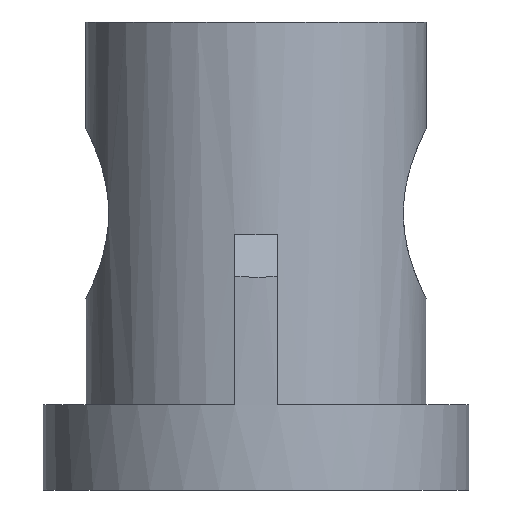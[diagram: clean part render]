
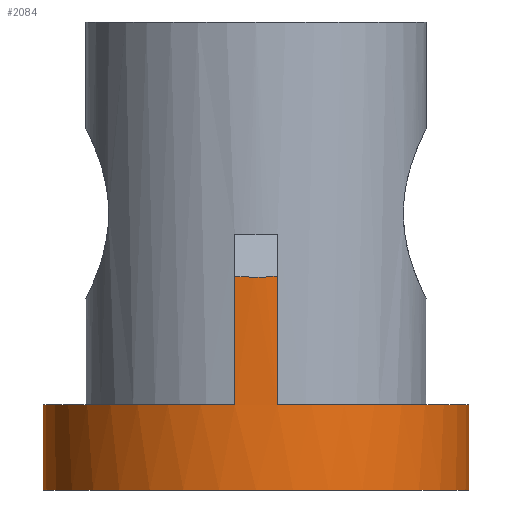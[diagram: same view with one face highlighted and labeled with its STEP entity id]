
A CAD part, left-side view. The second image highlights one B-rep face of the part: STEP entity #2084.
In plain terms, the highlighted cylindrical face has radius 50 mm (diameter 100 mm), a partial arc.
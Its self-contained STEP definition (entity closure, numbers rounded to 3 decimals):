
#100=CARTESIAN_POINT('',(-74.749,-5.,0.));
#101=VERTEX_POINT('',#100);
#108=CARTESIAN_POINT('',(-25.,-50.,0.));
#109=VERTEX_POINT('',#108);
#110=CARTESIAN_POINT('',(-25.,-0.,0.));
#111=DIRECTION('',(0.,0.,1.));
#112=DIRECTION('',(-1.,0.,0.));
#113=AXIS2_PLACEMENT_3D('',#110,#111,#112);
#114=CIRCLE('',#113,50.);
#115=EDGE_CURVE('',#101,#109,#114,.T.);
#2010=CARTESIAN_POINT('',(-25.,-0.,-20.));
#2011=DIRECTION('',(0.,0.,1.));
#2012=DIRECTION('',(1.,0.,-0.));
#2013=AXIS2_PLACEMENT_3D('',#2010,#2011,#2012);
#2014=CYLINDRICAL_SURFACE('',#2013,50.);
#2015=ORIENTED_EDGE('',*,*,#115,.F.);
#2016=CARTESIAN_POINT('',(-74.749,-5.,30.251));
#2017=VERTEX_POINT('',#2016);
#2018=CARTESIAN_POINT('',(-74.749,-5.,0.));
#2019=DIRECTION('',(0.,0.,1.));
#2020=VECTOR('',#2019,30.251);
#2021=LINE('',#2018,#2020);
#2022=EDGE_CURVE('',#101,#2017,#2021,.T.);
#2023=ORIENTED_EDGE('',*,*,#2022,.T.);
#2024=CARTESIAN_POINT('',(-74.749,5.,30.251));
#2025=VERTEX_POINT('',#2024);
#2026=CARTESIAN_POINT('',(-25.,0.,80.));
#2027=DIRECTION('',(-0.707,0.,0.707));
#2028=DIRECTION('',(0.707,0.,0.707));
#2029=AXIS2_PLACEMENT_3D('',#2026,#2027,#2028);
#2030=ELLIPSE('',#2029,70.711,50.);
#2031=EDGE_CURVE('',#2025,#2017,#2030,.T.);
#2032=ORIENTED_EDGE('',*,*,#2031,.F.);
#2033=CARTESIAN_POINT('',(-74.749,5.,0.));
#2034=VERTEX_POINT('',#2033);
#2035=CARTESIAN_POINT('',(-74.749,5.,30.251));
#2036=DIRECTION('',(-0.,-0.,-1.));
#2037=VECTOR('',#2036,30.251);
#2038=LINE('',#2035,#2037);
#2039=EDGE_CURVE('',#2025,#2034,#2038,.T.);
#2040=ORIENTED_EDGE('',*,*,#2039,.T.);
#2041=CARTESIAN_POINT('',(-25.,50.,0.));
#2042=VERTEX_POINT('',#2041);
#2043=CARTESIAN_POINT('',(-25.,0.,0.));
#2044=DIRECTION('',(0.,0.,1.));
#2045=DIRECTION('',(-1.,0.,0.));
#2046=AXIS2_PLACEMENT_3D('',#2043,#2044,#2045);
#2047=CIRCLE('',#2046,50.);
#2048=EDGE_CURVE('',#2042,#2034,#2047,.T.);
#2049=ORIENTED_EDGE('',*,*,#2048,.F.);
#2050=CARTESIAN_POINT('',(-25.,50.,-20.));
#2051=VERTEX_POINT('',#2050);
#2052=CARTESIAN_POINT('',(-25.,50.,-20.));
#2053=DIRECTION('',(0.,0.,1.));
#2054=VECTOR('',#2053,20.);
#2055=LINE('',#2052,#2054);
#2056=EDGE_CURVE('',#2051,#2042,#2055,.T.);
#2057=ORIENTED_EDGE('',*,*,#2056,.F.);
#2058=CARTESIAN_POINT('',(-75.,-0.,-20.));
#2059=VERTEX_POINT('',#2058);
#2060=CARTESIAN_POINT('',(-25.,0.,-20.));
#2061=DIRECTION('',(0.,0.,1.));
#2062=DIRECTION('',(-1.,0.,0.));
#2063=AXIS2_PLACEMENT_3D('',#2060,#2061,#2062);
#2064=CIRCLE('',#2063,50.);
#2065=EDGE_CURVE('',#2051,#2059,#2064,.T.);
#2066=ORIENTED_EDGE('',*,*,#2065,.T.);
#2067=CARTESIAN_POINT('',(-25.,-50.,-20.));
#2068=VERTEX_POINT('',#2067);
#2069=CARTESIAN_POINT('',(-25.,-0.,-20.));
#2070=DIRECTION('',(0.,0.,1.));
#2071=DIRECTION('',(-1.,0.,0.));
#2072=AXIS2_PLACEMENT_3D('',#2069,#2070,#2071);
#2073=CIRCLE('',#2072,50.);
#2074=EDGE_CURVE('',#2059,#2068,#2073,.T.);
#2075=ORIENTED_EDGE('',*,*,#2074,.T.);
#2076=CARTESIAN_POINT('',(-25.,-50.,-20.));
#2077=DIRECTION('',(0.,0.,1.));
#2078=VECTOR('',#2077,20.);
#2079=LINE('',#2076,#2078);
#2080=EDGE_CURVE('',#2068,#109,#2079,.T.);
#2081=ORIENTED_EDGE('',*,*,#2080,.T.);
#2082=EDGE_LOOP('',(#2015,#2023,#2032,#2040,#2049,#2057,#2066,#2075,#2081));
#2083=FACE_BOUND('',#2082,.T.);
#2084=ADVANCED_FACE('',(#2083),#2014,.T.);
